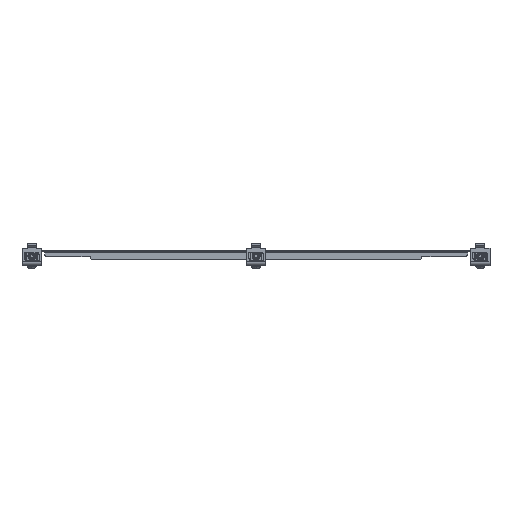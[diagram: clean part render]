
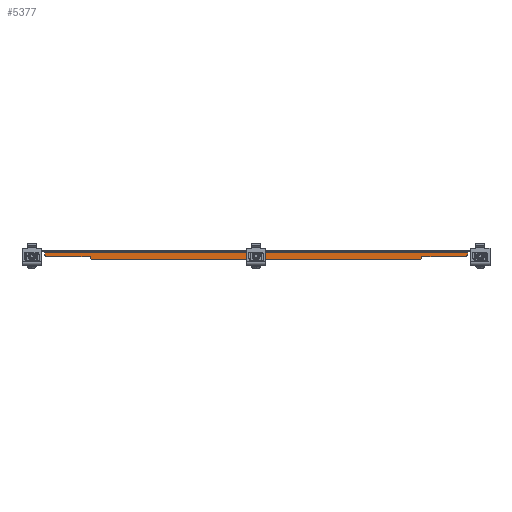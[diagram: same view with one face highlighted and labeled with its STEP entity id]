
A CAD part, front view. The second image highlights one B-rep face of the part: STEP entity #5377.
In plain terms, the highlighted planar face has unit normal (0, -1, 0).
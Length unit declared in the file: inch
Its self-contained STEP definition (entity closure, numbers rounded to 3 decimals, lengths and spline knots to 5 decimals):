
#1754=DIRECTION('',(-1.,0.,0.));
#1755=VECTOR('',#1754,38.1875);
#1756=CARTESIAN_POINT('',(19.09375,-26.46875,-0.237));
#1757=LINE('',#1756,#1755);
#1868=CARTESIAN_POINT('',(18.84375,-26.46875,-0.375));
#1869=DIRECTION('',(0.,-1.,0.));
#1870=DIRECTION('',(0.,0.,-1.));
#1871=AXIS2_PLACEMENT_3D('',#1868,#1869,#1870);
#1876=DIRECTION('',(-1.,0.,0.));
#1877=VECTOR('',#1876,3.875);
#1878=CARTESIAN_POINT('',(18.84375,-26.46875,-0.625));
#1879=LINE('',#1878,#1877);
#1883=CARTESIAN_POINT('',(14.71875,-26.46875,-0.625));
#1884=DIRECTION('',(0.,-1.,0.));
#1885=DIRECTION('',(0.,0.,-1.));
#1886=AXIS2_PLACEMENT_3D('',#1883,#1884,#1885);
#1891=DIRECTION('',(1.,0.,0.));
#1892=VECTOR('',#1891,29.4375);
#1893=CARTESIAN_POINT('',(-14.71875,-26.46875,-0.875));
#1894=LINE('',#1893,#1892);
#1898=CARTESIAN_POINT('',(-14.71875,-26.46875,-0.625));
#1899=DIRECTION('',(0.,-1.,0.));
#1900=DIRECTION('',(-1.,0.,0.));
#1901=AXIS2_PLACEMENT_3D('',#1898,#1899,#1900);
#1906=DIRECTION('',(1.,0.,0.));
#1907=VECTOR('',#1906,3.875);
#1908=CARTESIAN_POINT('',(-18.84375,-26.46875,-0.625));
#1909=LINE('',#1908,#1907);
#1913=CARTESIAN_POINT('',(-18.84375,-26.46875,-0.375));
#1914=DIRECTION('',(0.,-1.,0.));
#1915=DIRECTION('',(-1.,0.,0.));
#1916=AXIS2_PLACEMENT_3D('',#1913,#1914,#1915);
#1921=DIRECTION('',(0.,0.,-1.));
#1922=VECTOR('',#1921,0.138);
#1923=CARTESIAN_POINT('',(-19.09375,-26.46875,-0.237));
#1924=LINE('',#1923,#1922);
#1928=DIRECTION('',(0.,0.,1.));
#1929=VECTOR('',#1928,0.138);
#1930=CARTESIAN_POINT('',(19.09375,-26.46875,-0.375));
#1931=LINE('',#1930,#1929);
#2449=CARTESIAN_POINT('',(19.09375,-26.46875,-0.237));
#2450=CARTESIAN_POINT('',(-19.09375,-26.46875,-0.237));
#2451=VERTEX_POINT('',#2449);
#2452=VERTEX_POINT('',#2450);
#2833=CARTESIAN_POINT('',(18.84375,-26.46875,-0.625));
#2834=CARTESIAN_POINT('',(19.09375,-26.46875,-0.375));
#2835=VERTEX_POINT('',#2833);
#2836=VERTEX_POINT('',#2834);
#2841=CARTESIAN_POINT('',(14.71875,-26.46875,-0.875));
#2842=CARTESIAN_POINT('',(14.96875,-26.46875,-0.625));
#2843=VERTEX_POINT('',#2841);
#2844=VERTEX_POINT('',#2842);
#2849=CARTESIAN_POINT('',(-14.96875,-26.46875,-0.625));
#2850=CARTESIAN_POINT('',(-14.71875,-26.46875,-0.875));
#2851=VERTEX_POINT('',#2849);
#2852=VERTEX_POINT('',#2850);
#2857=CARTESIAN_POINT('',(-19.09375,-26.46875,-0.375));
#2858=CARTESIAN_POINT('',(-18.84375,-26.46875,-0.625));
#2859=VERTEX_POINT('',#2857);
#2860=VERTEX_POINT('',#2858);
#5353=CARTESIAN_POINT('',(-20.96875,-26.46875,0.));
#5354=DIRECTION('',(0.,-1.,0.));
#5355=DIRECTION('',(-1.,0.,0.));
#5356=AXIS2_PLACEMENT_3D('',#5353,#5354,#5355);
#5357=PLANE('',#5356);
#5359=ORIENTED_EDGE('',*,*,#5358,.F.);
#5361=ORIENTED_EDGE('',*,*,#5360,.T.);
#5363=ORIENTED_EDGE('',*,*,#5362,.F.);
#5365=ORIENTED_EDGE('',*,*,#5364,.F.);
#5367=ORIENTED_EDGE('',*,*,#5366,.F.);
#5369=ORIENTED_EDGE('',*,*,#5368,.F.);
#5370=ORIENTED_EDGE('',*,*,#5336,.F.);
#5371=ORIENTED_EDGE('',*,*,#5319,.F.);
#5372=ORIENTED_EDGE('',*,*,#5076,.F.);
#5374=ORIENTED_EDGE('',*,*,#5373,.F.);
#5375=EDGE_LOOP('',(#5359,#5361,#5363,#5365,#5367,#5369,#5370,#5371,#5372,
#5374));
#5376=FACE_OUTER_BOUND('',#5375,.F.);
#1872=CIRCLE('',#1871,0.25);
#1887=CIRCLE('',#1886,0.25);
#1902=CIRCLE('',#1901,0.25);
#1917=CIRCLE('',#1916,0.25);
#5076=EDGE_CURVE('',#2451,#2452,#1757,.T.);
#5319=EDGE_CURVE('',#2452,#2859,#1924,.T.);
#5336=EDGE_CURVE('',#2859,#2860,#1917,.T.);
#5358=EDGE_CURVE('',#2835,#2836,#1872,.T.);
#5360=EDGE_CURVE('',#2835,#2844,#1879,.T.);
#5362=EDGE_CURVE('',#2843,#2844,#1887,.T.);
#5364=EDGE_CURVE('',#2852,#2843,#1894,.T.);
#5366=EDGE_CURVE('',#2851,#2852,#1902,.T.);
#5368=EDGE_CURVE('',#2860,#2851,#1909,.T.);
#5373=EDGE_CURVE('',#2836,#2451,#1931,.T.);
#5377=ADVANCED_FACE('',(#5376),#5357,.T.);
